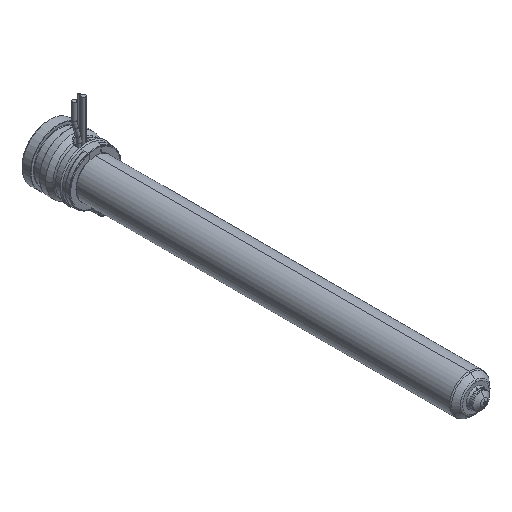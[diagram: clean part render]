
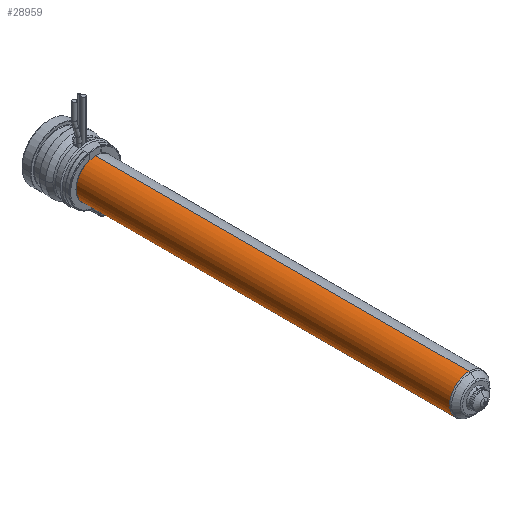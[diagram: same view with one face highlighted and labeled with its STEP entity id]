
A CAD part, isometric view. The second image highlights one B-rep face of the part: STEP entity #28959.
In plain terms, the highlighted cylindrical face has radius 9 mm (diameter 18 mm), a partial arc.
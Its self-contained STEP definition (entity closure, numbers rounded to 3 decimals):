
#28350=CARTESIAN_POINT('',(0.,-195.836,0.));
#28351=DIRECTION('',(0.,-1.,0.));
#28352=DIRECTION('',(0.,0.,1.));
#28353=AXIS2_PLACEMENT_3D('',#28350,#28351,#28352);
#28358=CARTESIAN_POINT('',(0.,-22.,0.));
#28359=DIRECTION('',(0.,-1.,0.));
#28360=DIRECTION('',(0.,0.,1.));
#28361=AXIS2_PLACEMENT_3D('',#28358,#28359,#28360);
#28366=DIRECTION('',(0.,-1.,0.));
#28367=VECTOR('',#28366,173.836);
#28368=CARTESIAN_POINT('',(0.,-22.,9.));
#28369=LINE('',#28368,#28367);
#28381=DIRECTION('',(0.,-1.,0.));
#28382=VECTOR('',#28381,173.836);
#28383=CARTESIAN_POINT('',(0.,-22.,-9.));
#28384=LINE('',#28383,#28382);
#28576=CARTESIAN_POINT('',(0.,-22.,9.));
#28577=CARTESIAN_POINT('',(0.,-195.836,9.));
#28578=VERTEX_POINT('',#28576);
#28579=VERTEX_POINT('',#28577);
#28602=CARTESIAN_POINT('',(0.,-22.,-9.));
#28603=CARTESIAN_POINT('',(0.,-195.836,-9.));
#28604=VERTEX_POINT('',#28602);
#28605=VERTEX_POINT('',#28603);
#28945=CARTESIAN_POINT('',(0.,-8.7,0.));
#28946=DIRECTION('',(0.,-1.,0.));
#28947=DIRECTION('',(0.,0.,1.));
#28948=AXIS2_PLACEMENT_3D('',#28945,#28946,#28947);
#28949=CYLINDRICAL_SURFACE('',#28948,9.);
#28951=ORIENTED_EDGE('',*,*,#28950,.T.);
#28952=ORIENTED_EDGE('',*,*,#28940,.T.);
#28954=ORIENTED_EDGE('',*,*,#28953,.F.);
#28956=ORIENTED_EDGE('',*,*,#28955,.F.);
#28957=EDGE_LOOP('',(#28951,#28952,#28954,#28956));
#28958=FACE_OUTER_BOUND('',#28957,.F.);
#28959=ADVANCED_FACE('',(#28958),#28949,.T.);
#28354=CIRCLE('',#28353,9.);
#28362=CIRCLE('',#28361,9.);
#28940=EDGE_CURVE('',#28579,#28605,#28354,.T.);
#28950=EDGE_CURVE('',#28578,#28579,#28369,.T.);
#28953=EDGE_CURVE('',#28604,#28605,#28384,.T.);
#28955=EDGE_CURVE('',#28578,#28604,#28362,.T.);
